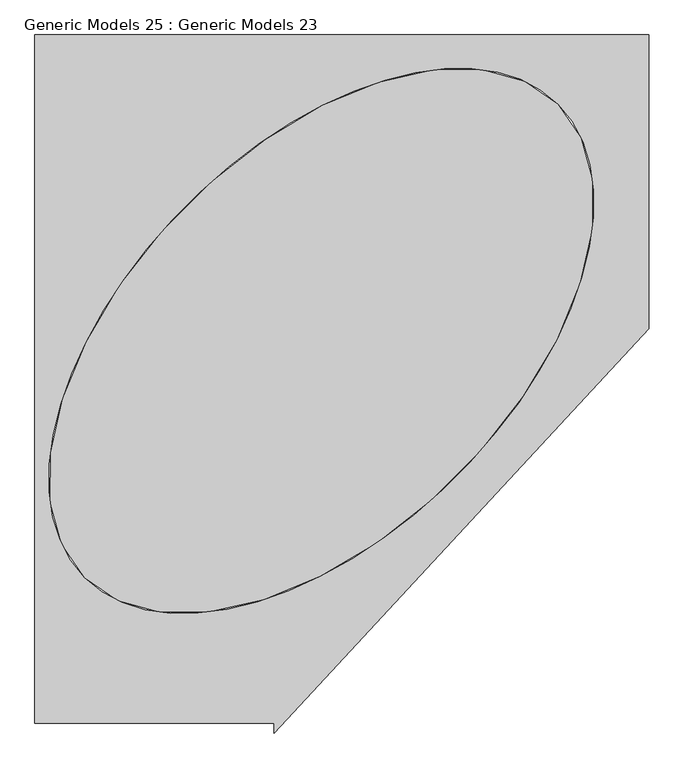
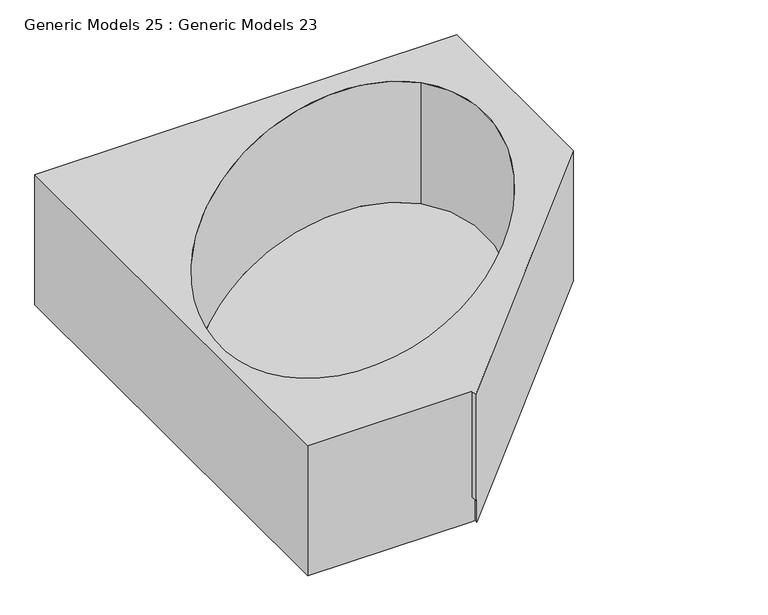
"""IFC4 building model written with IfcOpenShell, lengths in millimetres: proxy geometry, Generic Models 25 : Generic Models 23."""

from ifc_helpers import new_model, si_unit, point, frame, origin, place, context, project, spatial, ellipse_curve, trimmed, source, transform, mapped, element, save
from ifc_brep_helpers import plane_surface, extruded_surface, advanced_brep


def generic_models_25_generic_models_23_0da5df83(model_context):
    return source(origin(), model_context, "Body", "AdvancedBrep", [
        advanced_brep(
        [(-1758.95, 14477.8947939, 3784.6), (-1758.95, 12649.0947939, 3784.6), (-1123.95, 12649.0947939, 3784.6), (-1123.95, 12623.6947939, 3784.6), (-127.0, 13696.8447939, 3784.6), (-127.0, 14477.8947939, 3784.6), (-369.0158933, 14293.9147863, 3784.6), (-1626.2517503, 13036.6789293, 3784.6), (-1758.95, 14477.8947939, 3251.2), (-127.0, 14477.8947939, 3251.2), (-127.0, 13696.8447939, 3251.2), (-1111.25, 12637.3654945, 3251.2), (-1111.25, 12649.0947939, 3251.2), (-1123.95, 12649.0947939, 3251.2), (-1758.95, 12649.0947939, 3251.2), (-1123.95, 12623.6947939, 3352.8), (-1111.25, 12637.3654945, 3352.8), (-369.0158933, 14293.9147863, 3289.3), (-1626.2517503, 13036.6789293, 3289.3), (-1111.25, 12649.0947939, 3352.8), (-1123.95, 12649.0947939, 3352.8)],
        [
            (0, 1),
            (1, 2),
            (2, 3),
            (3, 4),
            (4, 5),
            (5, 0),
            (6, 7, ellipse_curve(frame((-997.6338218, 13665.2968578, 3784.6), z_axis=(0.0, 0.0, -1.0000000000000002), x_axis=(-0.7071067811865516, -0.7071067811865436, 0.0)), 889.0, 508.0)),
            (7, 6, ellipse_curve(frame((-997.6338218, 13665.2968578, 3784.6), z_axis=(0.0, 0.0, -1.0000000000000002), x_axis=(-0.7071067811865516, -0.7071067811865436, 0.0)), 889.0, 508.0)),
            (8, 9),
            (9, 10),
            (10, 11),
            (11, 12),
            (12, 13),
            (13, 14),
            (14, 8),
            (0, 8),
            (14, 1),
            (3, 15),
            (15, 16),
            (16, 11),
            (10, 4),
            (9, 5),
            (17, 18, ellipse_curve(frame((-997.6338218, 13665.2968578, 3289.3), z_axis=(0.0, 0.0, 1.0000000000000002), x_axis=(-0.7071067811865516, -0.7071067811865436, 0.0)), 889.0, 508.0)),
            (18, 17, ellipse_curve(frame((-997.6338218, 13665.2968578, 3289.3), z_axis=(0.0, 0.0, 1.0000000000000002), x_axis=(-0.7071067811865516, -0.7071067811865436, 0.0)), 889.0, 508.0)),
            (6, 17),
            (18, 7),
            (12, 19),
            (19, 20),
            (20, 2),
            (20, 15),
            (16, 19),
        ],
        [
            plane_surface(frame((-1758.95, 12649.0947939, 3784.6), z_axis=(0.0, 0.0, 1.0), x_axis=(0.0, -1.0, 0.0))),
            plane_surface(frame((-1758.95, 12649.0947939, 3251.2), z_axis=(0.0, 0.0, -1.0), x_axis=(0.0, 1.0, 0.0))),
            plane_surface(frame((-1758.95, 14477.8947939, 3784.6), z_axis=(-1.0, 0.0, 0.0), x_axis=(0.0, 0.0, -1.0))),
            plane_surface(frame((-1123.95, 12623.6947939, 3784.6), z_axis=(0.7326390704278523, -0.6806173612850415, 0.0), x_axis=(0.0, 0.0, -1.0))),
            plane_surface(frame((-127.0, 13696.8447939, 3784.6), z_axis=(1.0, 0.0, 0.0), x_axis=(0.0, 0.0, -1.0))),
            plane_surface(frame((-127.0, 14477.8947939, 3784.6), z_axis=(0.0, 1.0, 0.0), x_axis=(0.0, 0.0, -1.0))),
            plane_surface(frame((-1626.2517503, 13036.6789293, 3289.3), z_axis=(0.0, 0.0, 1.0000000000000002), x_axis=(-0.7071067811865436, 0.7071067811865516, 0.0))),
            extruded_surface(trimmed(ellipse_curve(frame((-997.6338218, 13665.2968578, 3784.6), z_axis=(0.0, 0.0, -1.0000000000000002), x_axis=(-0.7071067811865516, -0.7071067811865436, 0.0)), 889.0, 508.0), [point((-369.0158933, 14293.9147863, 3784.6))], [point((-1626.2517503, 13036.6789293, 3784.6))], True, "CARTESIAN"), (0.0, 0.0, 495.2999999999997), 495.2999999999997),
            extruded_surface(trimmed(ellipse_curve(frame((-997.6338218, 13665.2968578, 3784.6), z_axis=(0.0, 0.0, -1.0000000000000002), x_axis=(-0.7071067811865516, -0.7071067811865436, 0.0)), 889.0, 508.0), [point((-1626.2517503, 13036.6789293, 3784.6))], [point((-369.0158933, 14293.9147863, 3784.6))], True, "CARTESIAN"), (0.0, 0.0, 495.2999999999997), 495.2999999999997),
            plane_surface(frame((-1758.95, 12649.0947939, 3784.6), z_axis=(0.0, -1.0, 0.0), x_axis=(0.0, 0.0, -1.0))),
            plane_surface(frame((-1123.95, 12649.0947939, 3784.6), z_axis=(-1.0, 0.0, 0.0), x_axis=(0.0, 0.0, -1.0))),
            plane_surface(frame((-1111.25, 12284.3751061, 3251.2), z_axis=(-1.0, 0.0, 0.0), x_axis=(0.0, 1.0, 0.0))),
            plane_surface(frame((-1111.25, 12547.4947939, 3352.8), z_axis=(0.0, 0.0, -1.0), x_axis=(-1.0, 0.0, 0.0))),
        ],
        [
            (0, [[1, 2, 3, 4, 5, 6], [7, 8]]),
            (1, [[9, 10, 11, 12, 13, 14, 15]]),
            (2, [[-1, 16, -15, 17]]),
            (3, [[-4, 18, 19, 20, -11, 21]]),
            (4, [[-5, -21, -10, 22]]),
            (5, [[-6, -22, -9, -16]]),
            (6, [[23, 24]]),
            (7, [[-7, 25, -24, 26]]),
            (8, [[-8, -26, -23, -25]]),
            (9, [[-2, -17, -14, -13, 27, 28, 29]]),
            (10, [[-3, -29, 30, -18]]),
            (11, [[-27, -12, -20, 31]]),
            (12, [[-28, -31, -19, -30]]),
        ],
    ),
    ])


if __name__ == "__main__":
    model = new_model("IFC4")
    model_context = context("Model", 3, world=origin())
    ifc_project = project(units=[si_unit("LENGTHUNIT", "METRE", prefix="MILLI")], contexts=[model_context])
    site = spatial("IfcSite", under=ifc_project)
    building = spatial("IfcBuilding", under=site)
    placement = place(None, origin())
    generic_models_25_generic_models_23_shape = generic_models_25_generic_models_23_0da5df83(model_context)
    element("IfcBuildingElementProxy", 1, Name="Generic Models 25 : Generic Models 23", ObjectType="Generic Models 25 : Generic Models 23", at=placement, inside=building, context=model_context, shape_type="MappedRepresentation", body=[
        mapped(generic_models_25_generic_models_23_shape, transform((0.0, 0.0, 0.0), x_axis=(1.0, 0.0, 0.0), y_axis=(0.0, 1.0, 0.0), z_axis=(0.0, 0.0, 1.0))),
    ])
    save(model, "model.ifc")
